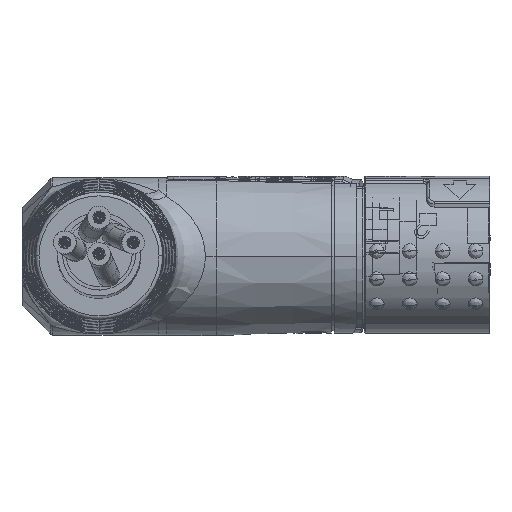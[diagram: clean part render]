
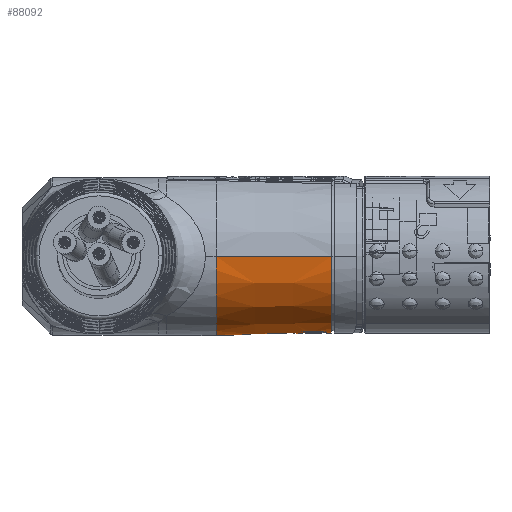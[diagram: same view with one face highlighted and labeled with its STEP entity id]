
A CAD part, top view. The second image highlights one B-rep face of the part: STEP entity #88092.
In plain terms, the highlighted conical face has half-angle 1.457 degrees and reference radius 10.86 mm.
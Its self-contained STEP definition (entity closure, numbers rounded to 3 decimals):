
#189 = CARTESIAN_POINT ( 'NONE',  ( 31.169, -10.472, -24.703 ) ) ;
#1292 = CARTESIAN_POINT ( 'NONE',  ( 27.859, -10.451, -25.946 ) ) ;
#4353 = FACE_BOUND ( 'NONE', #67371, .T. ) ;
#8039 = CARTESIAN_POINT ( 'NONE',  ( 30.183, -10.355, -26.175 ) ) ;
#8439 = CARTESIAN_POINT ( 'NONE',  ( 30.068, -10.347, -22.642 ) ) ;
#8478 = ORIENTED_EDGE ( 'NONE', *, *, #83151, .T. ) ;
#9147 = CARTESIAN_POINT ( 'NONE',  ( 28.176, -10.407, -26.173 ) ) ;
#9299 = DIRECTION ( 'NONE',  ( 0., 0., -1. ) ) ;
#9618 = CARTESIAN_POINT ( 'NONE',  ( 31.73, 0., -13.979 ) ) ;
#10483 = ORIENTED_EDGE ( 'NONE', *, *, #20944, .F. ) ;
#12395 = LINE ( 'NONE', #38106, #67136 ) ;
#12823 = VERTEX_POINT ( 'NONE', #100230 ) ;
#13251 = CARTESIAN_POINT ( 'NONE',  ( 16., 0., -13.579 ) ) ;
#13283 = FACE_OUTER_BOUND ( 'NONE', #17122, .T. ) ;
#16293 = CARTESIAN_POINT ( 'NONE',  ( 30.929, -10.435, -23.432 ) ) ;
#16443 = CARTESIAN_POINT ( 'NONE',  ( 29.441, -10.329, -26.427 ) ) ;
#16835 = CARTESIAN_POINT ( 'NONE',  ( 30.401, -10.373, -22.849 ) ) ;
#17122 = EDGE_LOOP ( 'NONE', ( #10483, #32757, #8478, #46536 ) ) ;
#17528 = CARTESIAN_POINT ( 'NONE',  ( 28.654, -10.357, -26.386 ) ) ;
#18063 = CARTESIAN_POINT ( 'NONE',  ( 27.385, -10.534, -25.328 ) ) ;
#20154 = CARTESIAN_POINT ( 'NONE',  ( 16., 0., -24.439 ) ) ;
#20831 = B_SPLINE_CURVE_WITH_KNOTS ( 'NONE', 3,
 ( #25718, #49882, #84680, #94166, #84136, #67937, #32989, #74628, #51001, #25180, #59463, #108771, #100343, #93604, #67381, #101466, #76289, #8439, #23523, #16835, #58906, #93065, #16293, #57784, #91942, #49323, #50442, #75182 ),
 .UNSPECIFIED., .F., .F.,
 ( 4, 2, 2, 2, 2, 2, 2, 2, 2, 2, 2, 2, 2, 4 ),
 ( 0.011, 0.011, 0.012, 0.012, 0.013, 0.013, 0.014, 0.014, 0.015, 0.015, 0.015, 0.016, 0.017, 0.017 ),
 .UNSPECIFIED. ) ;
#20944 = EDGE_CURVE ( 'NONE', #88009, #32853, #12395, .T. ) ;
#23523 = CARTESIAN_POINT ( 'NONE',  ( 30.183, -10.355, -22.703 ) ) ;
#23826 = ORIENTED_EDGE ( 'NONE', *, *, #30039, .T. ) ;
#24235 = CARTESIAN_POINT ( 'NONE',  ( 30.401, -10.373, -26.031 ) ) ;
#24794 = CARTESIAN_POINT ( 'NONE',  ( 27.591, -10.495, -25.659 ) ) ;
#25180 = CARTESIAN_POINT ( 'NONE',  ( 28.178, -10.407, -22.704 ) ) ;
#25718 = CARTESIAN_POINT ( 'NONE',  ( 27.182, -10.576, -24.439 ) ) ;
#25797 = CARTESIAN_POINT ( 'NONE',  ( 16., 0., -35.299 ) ) ;
#25876 = CARTESIAN_POINT ( 'NONE',  ( 27.96, -10.436, -26.028 ) ) ;
#28070 = VERTEX_POINT ( 'NONE', #69556 ) ;
#28719 = DIRECTION ( 'NONE',  ( 0., 0., 1. ) ) ;
#29096 = EDGE_CURVE ( 'NONE', #32853, #12823, #64458, .T. ) ;
#30039 = EDGE_CURVE ( 'NONE', #28070, #71485, #89457, .T. ) ;
#30496 = LINE ( 'NONE', #13251, #55067 ) ;
#32012 = AXIS2_PLACEMENT_3D ( 'NONE', #60329, #51312, #9299 ) ;
#32757 = ORIENTED_EDGE ( 'NONE', *, *, #64582, .T. ) ;
#32853 = VERTEX_POINT ( 'NONE', #25797 ) ;
#32989 = CARTESIAN_POINT ( 'NONE',  ( 27.583, -10.495, -23.21 ) ) ;
#33074 = AXIS2_PLACEMENT_3D ( 'NONE', #88820, #36086, #28719 ) ;
#35396 = CARTESIAN_POINT ( 'NONE',  ( 30.501, -10.383, -25.948 ) ) ;
#36086 = DIRECTION ( 'NONE',  ( -1., 0., 0. ) ) ;
#38106 = CARTESIAN_POINT ( 'NONE',  ( 16., 0., -35.299 ) ) ;
#41564 = CARTESIAN_POINT ( 'NONE',  ( 29.699, -10.332, -26.376 ) ) ;
#42133 = CARTESIAN_POINT ( 'NONE',  ( 29.824, -10.336, -26.338 ) ) ;
#43236 = CARTESIAN_POINT ( 'NONE',  ( 27.675, -10.481, -25.761 ) ) ;
#46536 = ORIENTED_EDGE ( 'NONE', *, *, #29096, .F. ) ;
#49323 = CARTESIAN_POINT ( 'NONE',  ( 31.169, -10.472, -24.178 ) ) ;
#49882 = CARTESIAN_POINT ( 'NONE',  ( 27.182, -10.576, -24.308 ) ) ;
#50171 = CONICAL_SURFACE ( 'NONE', #86045, 10.86, 0.025 ) ;
#50442 = CARTESIAN_POINT ( 'NONE',  ( 31.182, -10.474, -24.308 ) ) ;
#51001 = CARTESIAN_POINT ( 'NONE',  ( 27.962, -10.436, -22.849 ) ) ;
#51312 = DIRECTION ( 'NONE',  ( -1., 0., 0. ) ) ;
#51729 = CARTESIAN_POINT ( 'NONE',  ( 30.78, -10.413, -25.67 ) ) ;
#52279 = CARTESIAN_POINT ( 'NONE',  ( 27.182, -10.576, -24.703 ) ) ;
#55067 = VECTOR ( 'NONE', #81649, 1000. ) ;
#56040 = DIRECTION ( 'NONE',  ( -1., 0., 0. ) ) ;
#57784 = CARTESIAN_POINT ( 'NONE',  ( 31.079, -10.457, -23.794 ) ) ;
#58507 = CARTESIAN_POINT ( 'NONE',  ( 28.293, -10.393, -26.236 ) ) ;
#58906 = CARTESIAN_POINT ( 'NONE',  ( 30.504, -10.383, -22.933 ) ) ;
#59463 = CARTESIAN_POINT ( 'NONE',  ( 28.293, -10.393, -22.643 ) ) ;
#60329 = CARTESIAN_POINT ( 'NONE',  ( 16., 0., -24.439 ) ) ;
#62843 = DIRECTION ( 'NONE',  ( 0., 0., 1. ) ) ;
#64458 = CIRCLE ( 'NONE', #32012, 10.86 ) ;
#64582 = EDGE_CURVE ( 'NONE', #88009, #69274, #81509, .T. ) ;
#67136 = VECTOR ( 'NONE', #72457, 1000. ) ;
#67371 = EDGE_LOOP ( 'NONE', ( #74997, #23826 ) ) ;
#67381 = CARTESIAN_POINT ( 'NONE',  ( 29.442, -10.329, -22.452 ) ) ;
#67937 = CARTESIAN_POINT ( 'NONE',  ( 27.435, -10.524, -23.432 ) ) ;
#68095 = CARTESIAN_POINT ( 'NONE',  ( 29.309, -10.33, -26.44 ) ) ;
#69182 = CARTESIAN_POINT ( 'NONE',  ( 27.447, -10.522, -25.442 ) ) ;
#69274 = VERTEX_POINT ( 'NONE', #9618 ) ;
#69556 = CARTESIAN_POINT ( 'NONE',  ( 31.182, -10.474, -24.439 ) ) ;
#71485 = VERTEX_POINT ( 'NONE', #83789 ) ;
#72457 = DIRECTION ( 'NONE',  ( -1., 0., -0.025 ) ) ;
#74628 = CARTESIAN_POINT ( 'NONE',  ( 27.86, -10.451, -22.933 ) ) ;
#74997 = ORIENTED_EDGE ( 'NONE', *, *, #78797, .T. ) ;
#75182 = CARTESIAN_POINT ( 'NONE',  ( 31.182, -10.474, -24.439 ) ) ;
#76289 = CARTESIAN_POINT ( 'NONE',  ( 29.826, -10.336, -22.542 ) ) ;
#76442 = CARTESIAN_POINT ( 'NONE',  ( 27.234, -10.564, -24.963 ) ) ;
#76999 = CARTESIAN_POINT ( 'NONE',  ( 30.928, -10.434, -25.449 ) ) ;
#78797 = EDGE_CURVE ( 'NONE', #71485, #28070, #20831, .T. ) ;
#81509 = CIRCLE ( 'NONE', #33074, 10.46 ) ;
#81649 = DIRECTION ( 'NONE',  ( -1., 0., 0.025 ) ) ;
#83151 = EDGE_CURVE ( 'NONE', #69274, #12823, #30496, .T. ) ;
#83789 = CARTESIAN_POINT ( 'NONE',  ( 27.182, -10.576, -24.439 ) ) ;
#84136 = CARTESIAN_POINT ( 'NONE',  ( 27.284, -10.554, -23.794 ) ) ;
#84280 = CARTESIAN_POINT ( 'NONE',  ( 31.182, -10.474, -24.57 ) ) ;
#84680 = CARTESIAN_POINT ( 'NONE',  ( 27.195, -10.573, -24.178 ) ) ;
#85930 = CARTESIAN_POINT ( 'NONE',  ( 28.917, -10.34, -26.439 ) ) ;
#86045 = AXIS2_PLACEMENT_3D ( 'NONE', #20154, #56040, #62843 ) ;
#86467 = CARTESIAN_POINT ( 'NONE',  ( 31.182, -10.474, -24.439 ) ) ;
#88009 = VERTEX_POINT ( 'NONE', #106332 ) ;
#88092 = ADVANCED_FACE ( 'NONE', ( #13283, #4353 ), #50171, .T. ) ;
#88820 = CARTESIAN_POINT ( 'NONE',  ( 31.73, 0., -24.439 ) ) ;
#89457 = B_SPLINE_CURVE_WITH_KNOTS ( 'NONE', 3,
 ( #86467, #84280, #189, #92664, #94312, #76999, #51729, #35396, #24235, #8039, #94869, #42133, #41564, #16443, #68095, #85930, #17528, #58507, #9147, #25876, #1292, #43236, #24794, #69182, #18063, #76442, #52279, #103322 ),
 .UNSPECIFIED., .F., .F.,
 ( 4, 2, 2, 2, 2, 2, 2, 2, 2, 2, 2, 2, 2, 4 ),
 ( 0.005, 0.005, 0.005, 0.006, 0.006, 0.007, 0.007, 0.008, 0.008, 0.009, 0.009, 0.01, 0.01, 0.011 ),
 .UNSPECIFIED. ) ;
#91942 = CARTESIAN_POINT ( 'NONE',  ( 31.118, -10.464, -23.921 ) ) ;
#92664 = CARTESIAN_POINT ( 'NONE',  ( 31.117, -10.463, -24.96 ) ) ;
#93065 = CARTESIAN_POINT ( 'NONE',  ( 30.78, -10.413, -23.209 ) ) ;
#93604 = CARTESIAN_POINT ( 'NONE',  ( 29.312, -10.33, -22.439 ) ) ;
#94166 = CARTESIAN_POINT ( 'NONE',  ( 27.246, -10.562, -23.921 ) ) ;
#94312 = CARTESIAN_POINT ( 'NONE',  ( 31.079, -10.457, -25.085 ) ) ;
#94869 = CARTESIAN_POINT ( 'NONE',  ( 30.066, -10.347, -26.238 ) ) ;
#100230 = CARTESIAN_POINT ( 'NONE',  ( 16., 0., -13.579 ) ) ;
#100343 = CARTESIAN_POINT ( 'NONE',  ( 28.916, -10.34, -22.44 ) ) ;
#101466 = CARTESIAN_POINT ( 'NONE',  ( 29.699, -10.332, -22.503 ) ) ;
#103322 = CARTESIAN_POINT ( 'NONE',  ( 27.182, -10.576, -24.439 ) ) ;
#106332 = CARTESIAN_POINT ( 'NONE',  ( 31.73, 0., -34.899 ) ) ;
#108771 = CARTESIAN_POINT ( 'NONE',  ( 28.656, -10.357, -22.492 ) ) ;
